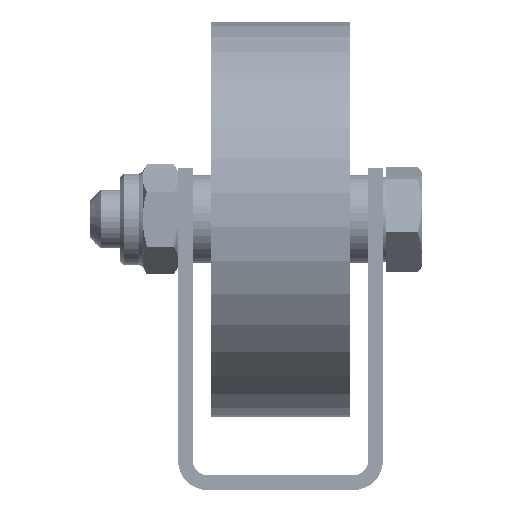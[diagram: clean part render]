
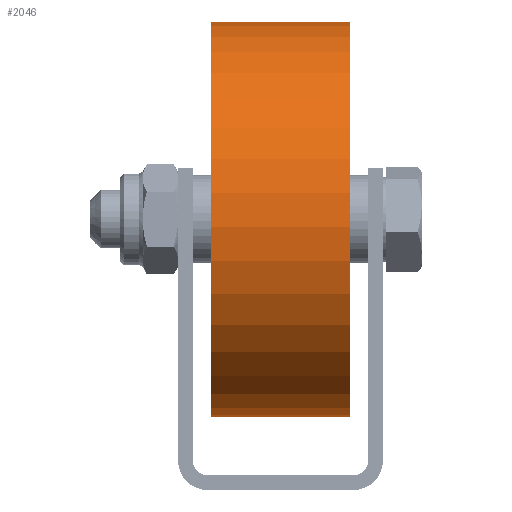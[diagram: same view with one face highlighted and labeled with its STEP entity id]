
A CAD part, front view. The second image highlights one B-rep face of the part: STEP entity #2046.
In plain terms, the highlighted cylindrical face has radius 27 mm (diameter 54 mm), a full revolution.
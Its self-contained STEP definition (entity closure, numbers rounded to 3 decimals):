
#2046 = ADVANCED_FACE( '', ( #4426, #4427 ), #4428, .T. );
#4426 = FACE_OUTER_BOUND( '', #7337, .T. );
#4427 = FACE_OUTER_BOUND( '', #7338, .T. );
#4428 = CYLINDRICAL_SURFACE( '', #7339, 27. );
#7337 = EDGE_LOOP( '', ( #11042 ) );
#7338 = EDGE_LOOP( '', ( #11043 ) );
#7339 = AXIS2_PLACEMENT_3D( '', #11044, #11045, #11046 );
#11042 = ORIENTED_EDGE( '', *, *, #13965, .T. );
#11043 = ORIENTED_EDGE( '', *, *, #13890, .F. );
#11044 = CARTESIAN_POINT( '', ( 0., -9.5, 0. ) );
#11045 = DIRECTION( '', ( 0., -1., 0. ) );
#11046 = DIRECTION( '', ( 0., 0., 1. ) );
#13890 = EDGE_CURVE( '', #16217, #16217, #16218, .T. );
#13965 = EDGE_CURVE( '', #16329, #16329, #16330, .T. );
#16217 = VERTEX_POINT( '', #19062 );
#16218 = CIRCLE( '', #19063, 27. );
#16329 = VERTEX_POINT( '', #19226 );
#16330 = CIRCLE( '', #19227, 27. );
#19062 = CARTESIAN_POINT( '', ( 27., 9.5, 0. ) );
#19063 = AXIS2_PLACEMENT_3D( '', #22029, #22030, #22031 );
#19226 = CARTESIAN_POINT( '', ( 27., -9.5, 0. ) );
#19227 = AXIS2_PLACEMENT_3D( '', #22126, #22127, #22128 );
#22029 = CARTESIAN_POINT( '', ( 0., 9.5, 0. ) );
#22030 = DIRECTION( '', ( 0., 1., 0. ) );
#22031 = DIRECTION( '', ( 1., 0., 0. ) );
#22126 = CARTESIAN_POINT( '', ( 0., -9.5, 0. ) );
#22127 = DIRECTION( '', ( 0., 1., 0. ) );
#22128 = DIRECTION( '', ( 1., 0., 0. ) );
